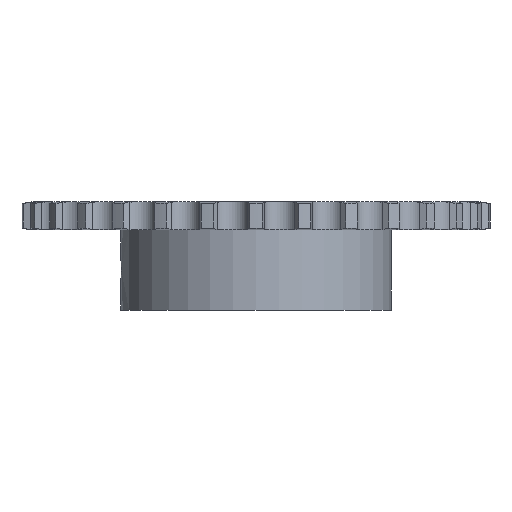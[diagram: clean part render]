
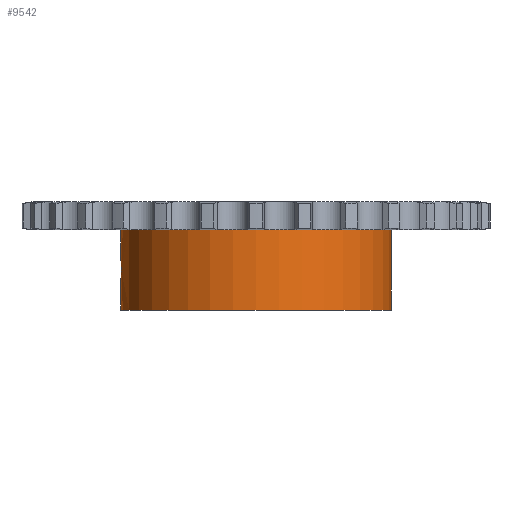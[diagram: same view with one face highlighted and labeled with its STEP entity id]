
A CAD part, front view. The second image highlights one B-rep face of the part: STEP entity #9542.
In plain terms, the highlighted cylindrical face has radius 35 mm (diameter 70 mm), a partial arc.
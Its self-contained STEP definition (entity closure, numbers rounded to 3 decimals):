
#1615=CARTESIAN_POINT('',(0.,0.,-3.6));
#1616=DIRECTION('',(0.,0.,1.));
#1617=DIRECTION('',(-1.,0.,0.));
#1618=AXIS2_PLACEMENT_3D('',#1615,#1616,#1617);
#4940=CARTESIAN_POINT('',(-35.,0.,
-11.));
#4963=DIRECTION('',(0.,0.,1.));
#4964=VECTOR('',#4963,20.8);
#4965=CARTESIAN_POINT('',(35.,0.,-24.4));
#4966=LINE('',#4965,#4964);
#5084=CARTESIAN_POINT('',(-35.,0.,
-11.));
#5085=CARTESIAN_POINT('',(-35.,-0.126,
-11.));
#5086=CARTESIAN_POINT('',(-34.998,-0.406,
-11.017));
#5087=CARTESIAN_POINT('',(-34.991,-0.834,
-11.102));
#5088=CARTESIAN_POINT('',(-34.978,-1.269,
-11.259));
#5089=CARTESIAN_POINT('',(-34.961,-1.674,
-11.477));
#5090=CARTESIAN_POINT('',(-34.941,-2.04,
-11.752));
#5091=CARTESIAN_POINT('',(-34.921,-2.358,
-12.075));
#5092=CARTESIAN_POINT('',(-34.902,-2.624,
-12.443));
#5093=CARTESIAN_POINT('',(-34.885,-2.832,
-12.845));
#5094=CARTESIAN_POINT('',(-34.873,-2.975,
-13.271));
#5095=CARTESIAN_POINT('',(-34.868,-3.043,
-13.66));
#5096=CARTESIAN_POINT('',(-34.866,-3.055,
-13.903));
#5097=CARTESIAN_POINT('',(-34.866,-3.055,
-14.));
#5102=DIRECTION('',(0.,0.,1.));
#5103=VECTOR('',#5102,7.4);
#5104=CARTESIAN_POINT('',(-35.,0.,
-11.));
#5105=LINE('',#5104,#5103);
#5109=DIRECTION('',(0.,0.,1.));
#5110=VECTOR('',#5109,7.4);
#5111=CARTESIAN_POINT('',(-35.,0.,-24.4));
#5112=LINE('',#5111,#5110);
#5116=CARTESIAN_POINT('',(-34.866,-3.055,
-14.));
#5117=CARTESIAN_POINT('',(-34.866,-3.055,
-14.109));
#5118=CARTESIAN_POINT('',(-34.868,-3.04,
-14.363));
#5119=CARTESIAN_POINT('',(-34.874,-2.966,
-14.761));
#5120=CARTESIAN_POINT('',(-34.886,-2.82,
-15.182));
#5121=CARTESIAN_POINT('',(-34.903,-2.61,
-15.58));
#5122=CARTESIAN_POINT('',(-34.922,-2.343,
-15.942));
#5123=CARTESIAN_POINT('',(-34.942,-2.025,
-16.261));
#5124=CARTESIAN_POINT('',(-34.961,-1.661,
-16.531));
#5125=CARTESIAN_POINT('',(-34.978,-1.258,
-16.746));
#5126=CARTESIAN_POINT('',(-34.991,-0.826,
-16.9));
#5127=CARTESIAN_POINT('',(-34.999,-0.403,
-16.983));
#5128=CARTESIAN_POINT('',(-35.,-0.125,
-17.));
#5129=CARTESIAN_POINT('',(-35.,0.,
-17.));
#5142=CARTESIAN_POINT('',(0.,0.,-24.4));
#5143=DIRECTION('',(0.,0.,-1.));
#5144=DIRECTION('',(1.,0.,0.));
#5145=AXIS2_PLACEMENT_3D('',#5142,#5143,#5144);
#5603=CARTESIAN_POINT('',(-35.,0.,-24.4));
#5604=CARTESIAN_POINT('',(35.,0.,-24.4));
#5605=VERTEX_POINT('',#5603);
#5606=VERTEX_POINT('',#5604);
#5607=CARTESIAN_POINT('',(35.,0.,-3.6));
#5608=VERTEX_POINT('',#5607);
#5609=CARTESIAN_POINT('',(-35.,0.,-3.6));
#5610=VERTEX_POINT('',#5609);
#5968=VERTEX_POINT('',#4940);
#5971=VERTEX_POINT('',#5097);
#5973=VERTEX_POINT('',#5129);
#9526=CARTESIAN_POINT('',(0.,0.,3.6));
#9527=DIRECTION('',(0.,0.,1.));
#9528=DIRECTION('',(1.,0.,0.));
#9529=AXIS2_PLACEMENT_3D('',#9526,#9527,#9528);
#9530=CYLINDRICAL_SURFACE('',#9529,35.);
#9531=ORIENTED_EDGE('',*,*,#9516,.F.);
#9532=ORIENTED_EDGE('',*,*,#9131,.T.);
#9533=ORIENTED_EDGE('',*,*,#7682,.T.);
#9534=ORIENTED_EDGE('',*,*,#9128,.F.);
#9536=ORIENTED_EDGE('',*,*,#9535,.T.);
#9537=ORIENTED_EDGE('',*,*,#9124,.T.);
#9539=ORIENTED_EDGE('',*,*,#9538,.F.);
#9540=EDGE_LOOP('',(#9531,#9532,#9533,#9534,#9536,#9537,#9539));
#9541=FACE_OUTER_BOUND('',#9540,.F.);
#9542=ADVANCED_FACE('',(#9541),#9530,.T.);
#1619=CIRCLE('',#1618,35.);
#5098=B_SPLINE_CURVE_WITH_KNOTS('',3,(#5084,#5085,#5086,#5087,#5088,#5089,#5090,
#5091,#5092,#5093,#5094,#5095,#5096,#5097),.UNSPECIFIED.,.F.,.F.,(4,1,1,1,1,1,1,
1,1,1,1,4),(0.,0.078,0.174,0.269,
0.364,0.459,0.555,0.65,
0.745,0.84,0.935,1.),.UNSPECIFIED.);
#5130=B_SPLINE_CURVE_WITH_KNOTS('',3,(#5116,#5117,#5118,#5119,#5120,#5121,#5122,
#5123,#5124,#5125,#5126,#5127,#5128,#5129),.UNSPECIFIED.,.F.,.F.,(4,1,1,1,1,1,1,
1,1,1,1,4),(0.,0.073,0.167,0.262,
0.356,0.45,0.545,0.639,
0.734,0.828,0.922,1.),.UNSPECIFIED.);
#5146=CIRCLE('',#5145,35.);
#7682=EDGE_CURVE('',#5610,#5608,#1619,.T.);
#9124=EDGE_CURVE('',#5605,#5973,#5112,.T.);
#9128=EDGE_CURVE('',#5606,#5608,#4966,.T.);
#9131=EDGE_CURVE('',#5968,#5610,#5105,.T.);
#9516=EDGE_CURVE('',#5968,#5971,#5098,.T.);
#9535=EDGE_CURVE('',#5606,#5605,#5146,.T.);
#9538=EDGE_CURVE('',#5971,#5973,#5130,.T.);
